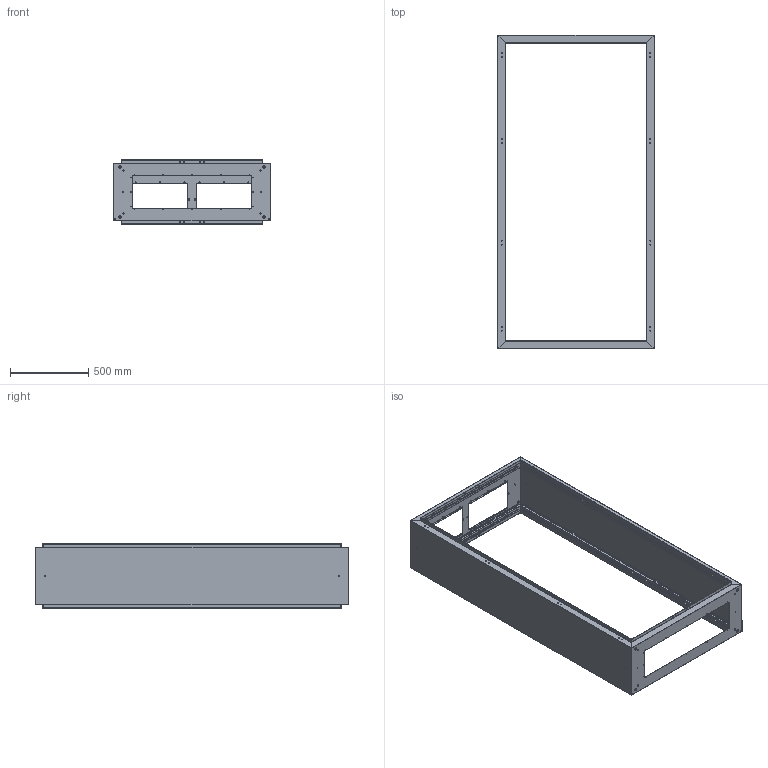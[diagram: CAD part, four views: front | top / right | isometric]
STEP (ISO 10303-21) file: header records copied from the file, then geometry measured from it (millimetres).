
FILE_DESCRIPTION (( 'STEP AP203' ), '1' );
FILE_NAME ('1000x2000x400.STEP', '2021-11-11T16:55:13', ( '' ), ( '' ), 'SwSTEP 2.0', 'SolidWorks 2019', '' );
FILE_SCHEMA (( 'CONFIG_CONTROL_DESIGN' ));
Length unit declared in the file: millimetre
Products named in the file (4): Alt Kapak 1,5mm_monoblok_tekkapakrevize_PP 16.1022 1000Gx400D ALT; Yan Kapak 1,5mm_monoblok_tekkapakrevize_PP 16.1006 - 2000Yx400D YAN; Üst Kapak 1,5mm_monoblok_tekkapakrevize_PP 16.1013 1000Gx400D šST; 1000x2000x400
Assembly tree (4 placements, depth 2):
  1000x2000x400
    Alt Kapak 1,5mm_monoblok_tekkapakrevize_PP 16.1022 1000Gx400D ALT
    Üst Kapak 1,5mm_monoblok_tekkapakrevize_PP 16.1013 1000Gx400D šST
    Yan Kapak 1,5mm_monoblok_tekkapakrevize_PP 16.1006 - 2000Yx400D YAN  x2
Bounding box: 1000 x 2000 x 412 mm (x, y, z)
Volume: 5279013.7 mm3; surface area: 7140631.2 mm2
Topology: 4 solids, 4 shells, 5936 faces, 17504 edges, 11584 vertices
Faces by surface type: plane 3860, cylinder 2060, bspline 16
Entity records: 139626 total; most frequent: CARTESIAN_POINT 24231, ORIENTED_EDGE 23720, DIRECTION 22666, EDGE_CURVE 11860, VECTOR 9060, LINE 9060, VERTEX_POINT 7840, AXIS2_PLACEMENT_3D 6803
